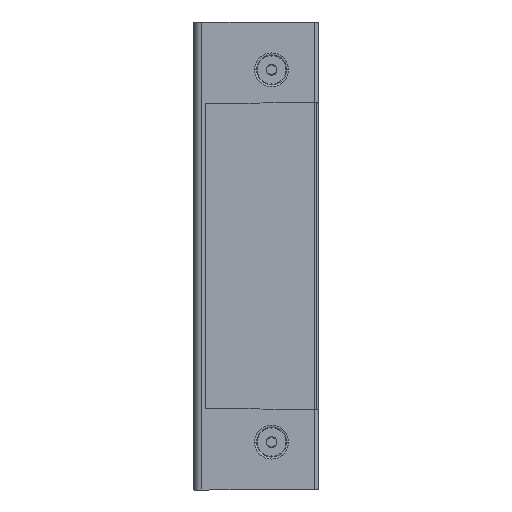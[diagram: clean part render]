
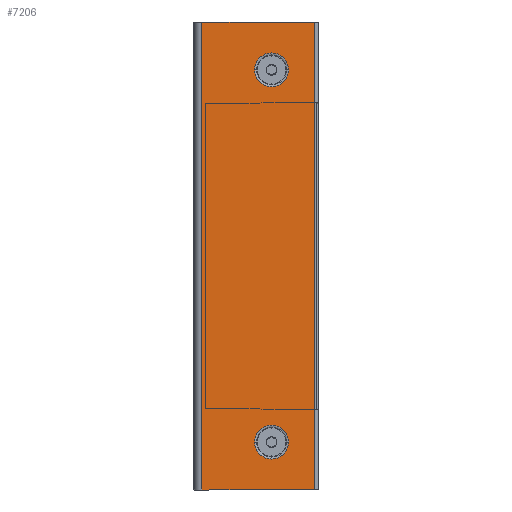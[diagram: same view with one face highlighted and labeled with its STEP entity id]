
A CAD part, left-side view. The second image highlights one B-rep face of the part: STEP entity #7206.
In plain terms, the highlighted planar face has unit normal (-1, 0, 0).
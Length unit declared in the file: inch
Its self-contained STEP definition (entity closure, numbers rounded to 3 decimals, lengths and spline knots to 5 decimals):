
#4 = CARTESIAN_POINT ( 'NONE',  ( -0.029, -0.7874, 1.9685 ) ) ;
#268 = EDGE_CURVE ( 'NONE', #2830, #8016, #7154, .T. ) ;
#493 = ORIENTED_EDGE ( 'NONE', *, *, #3940, .F. ) ;
#664 = CARTESIAN_POINT ( 'NONE',  ( -0.029, 0., 2.475 ) ) ;
#721 = DIRECTION ( 'NONE',  ( 0., -1., 0. ) ) ;
#1059 = DIRECTION ( 'NONE',  ( -1., 0., 0. ) ) ;
#1263 = CARTESIAN_POINT ( 'NONE',  ( -0.029, -0.05, 2.475 ) ) ;
#1334 = CARTESIAN_POINT ( 'NONE',  ( -0.029, -0.7874, -1.9685 ) ) ;
#1485 = LINE ( 'NONE', #3241, #5393 ) ;
#1605 = CARTESIAN_POINT ( 'NONE',  ( -0.029, -1.24, -2.475 ) ) ;
#1645 = CARTESIAN_POINT ( 'NONE',  ( -0.029, -1.24, 2.475 ) ) ;
#2207 = AXIS2_PLACEMENT_3D ( 'NONE', #4, #4663, #5331 ) ;
#2293 = ORIENTED_EDGE ( 'NONE', *, *, #268, .F. ) ;
#2430 = VECTOR ( 'NONE', #6090, 39.37008 ) ;
#2558 = DIRECTION ( 'NONE',  ( 0., -1., 0. ) ) ;
#2587 = EDGE_CURVE ( 'NONE', #7191, #5490, #8044, .T. ) ;
#2608 = VERTEX_POINT ( 'NONE', #4921 ) ;
#2758 = FACE_BOUND ( 'NONE', #6678, .T. ) ;
#2823 = VERTEX_POINT ( 'NONE', #1263 ) ;
#2830 = VERTEX_POINT ( 'NONE', #4051 ) ;
#2859 = EDGE_CURVE ( 'NONE', #8016, #2830, #8451, .T. ) ;
#3241 = CARTESIAN_POINT ( 'NONE',  ( -0.029, 0., 2.475 ) ) ;
#3349 = ORIENTED_EDGE ( 'NONE', *, *, #8009, .T. ) ;
#3585 = AXIS2_PLACEMENT_3D ( 'NONE', #664, #8128, #4771 ) ;
#3632 = CARTESIAN_POINT ( 'NONE',  ( -0.029, -0.60771, 1.9685 ) ) ;
#3796 = AXIS2_PLACEMENT_3D ( 'NONE', #4018, #8690, #6062 ) ;
#3940 = EDGE_CURVE ( 'NONE', #6031, #5512, #8642, .T. ) ;
#4018 = CARTESIAN_POINT ( 'NONE',  ( -0.029, -0.7874, -1.9685 ) ) ;
#4051 = CARTESIAN_POINT ( 'NONE',  ( -0.029, -0.60771, -1.9685 ) ) ;
#4150 = ORIENTED_EDGE ( 'NONE', *, *, #8504, .F. ) ;
#4287 = VECTOR ( 'NONE', #8425, 39.37008 ) ;
#4624 = ORIENTED_EDGE ( 'NONE', *, *, #2587, .F. ) ;
#4663 = DIRECTION ( 'NONE',  ( -1., 0., 0. ) ) ;
#4771 = DIRECTION ( 'NONE',  ( 0., 1., 0. ) ) ;
#4781 = AXIS2_PLACEMENT_3D ( 'NONE', #1334, #8108, #721 ) ;
#4921 = CARTESIAN_POINT ( 'NONE',  ( -0.029, -0.05, -2.475 ) ) ;
#5331 = DIRECTION ( 'NONE',  ( 0., -1., 0. ) ) ;
#5393 = VECTOR ( 'NONE', #6048, 39.37008 ) ;
#5425 = PLANE ( 'NONE',  #3585 ) ;
#5490 = VERTEX_POINT ( 'NONE', #3632 ) ;
#5512 = VERTEX_POINT ( 'NONE', #1605 ) ;
#5749 = EDGE_CURVE ( 'NONE', #5490, #7191, #5990, .T. ) ;
#5797 = DIRECTION ( 'NONE',  ( 0., -1., 0. ) ) ;
#5867 = LINE ( 'NONE', #8670, #7356 ) ;
#5990 = CIRCLE ( 'NONE', #2207, 0.17969 ) ;
#6031 = VERTEX_POINT ( 'NONE', #8446 ) ;
#6032 = EDGE_LOOP ( 'NONE', ( #4624, #6152 ) ) ;
#6048 = DIRECTION ( 'NONE',  ( 0., -1., 0. ) ) ;
#6062 = DIRECTION ( 'NONE',  ( 0., -1., 0. ) ) ;
#6090 = DIRECTION ( 'NONE',  ( 0., 0., -1. ) ) ;
#6152 = ORIENTED_EDGE ( 'NONE', *, *, #5749, .F. ) ;
#6678 = EDGE_LOOP ( 'NONE', ( #8131, #2293 ) ) ;
#6703 = FACE_BOUND ( 'NONE', #6032, .T. ) ;
#6805 = EDGE_CURVE ( 'NONE', #2608, #5512, #5867, .T. ) ;
#7154 = CIRCLE ( 'NONE', #4781, 0.17969 ) ;
#7165 = AXIS2_PLACEMENT_3D ( 'NONE', #8533, #1059, #5797 ) ;
#7191 = VERTEX_POINT ( 'NONE', #8724 ) ;
#7206 = ADVANCED_FACE ( 'NONE', ( #6703, #2758, #8705 ), #5425, .F. ) ;
#7356 = VECTOR ( 'NONE', #2558, 39.37008 ) ;
#7415 = CARTESIAN_POINT ( 'NONE',  ( -0.029, -0.05, 2.475 ) ) ;
#7444 = CARTESIAN_POINT ( 'NONE',  ( -0.029, -0.9671, -1.9685 ) ) ;
#7724 = ORIENTED_EDGE ( 'NONE', *, *, #6805, .T. ) ;
#7856 = LINE ( 'NONE', #7415, #2430 ) ;
#7949 = EDGE_LOOP ( 'NONE', ( #7724, #493, #4150, #3349 ) ) ;
#8009 = EDGE_CURVE ( 'NONE', #2823, #2608, #7856, .T. ) ;
#8016 = VERTEX_POINT ( 'NONE', #7444 ) ;
#8044 = CIRCLE ( 'NONE', #7165, 0.17969 ) ;
#8108 = DIRECTION ( 'NONE',  ( -1., 0., 0. ) ) ;
#8128 = DIRECTION ( 'NONE',  ( 1., 0., 0. ) ) ;
#8131 = ORIENTED_EDGE ( 'NONE', *, *, #2859, .F. ) ;
#8425 = DIRECTION ( 'NONE',  ( 0., 0., -1. ) ) ;
#8446 = CARTESIAN_POINT ( 'NONE',  ( -0.029, -1.24, 2.475 ) ) ;
#8451 = CIRCLE ( 'NONE', #3796, 0.17969 ) ;
#8504 = EDGE_CURVE ( 'NONE', #2823, #6031, #1485, .T. ) ;
#8533 = CARTESIAN_POINT ( 'NONE',  ( -0.029, -0.7874, 1.9685 ) ) ;
#8642 = LINE ( 'NONE', #1645, #4287 ) ;
#8670 = CARTESIAN_POINT ( 'NONE',  ( -0.029, 0., -2.475 ) ) ;
#8690 = DIRECTION ( 'NONE',  ( -1., 0., 0. ) ) ;
#8705 = FACE_OUTER_BOUND ( 'NONE', #7949, .T. ) ;
#8724 = CARTESIAN_POINT ( 'NONE',  ( -0.029, -0.9671, 1.9685 ) ) ;
